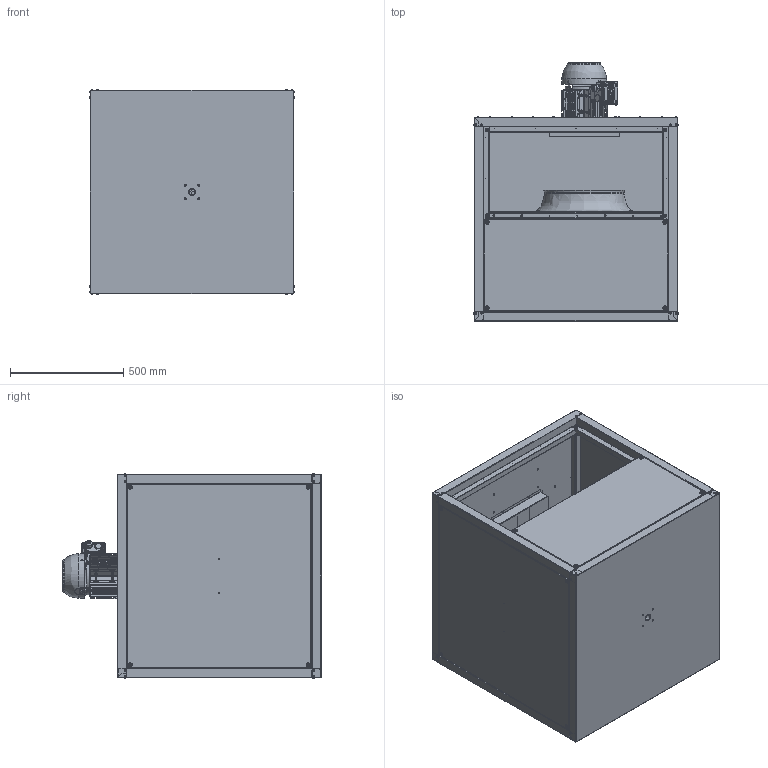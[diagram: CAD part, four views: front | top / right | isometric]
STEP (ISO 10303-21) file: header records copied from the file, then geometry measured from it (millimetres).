
FILE_DESCRIPTION (( 'STEP AP203' ), '1' );
FILE_NAME ('146711-00_MPC560D4F4TI30_step.step', '2018-10-09T10:19:29', ( '' ), ( '' ), 'SwSTEP 2.0', 'SolidWorks 2017', '' );
FILE_SCHEMA (( 'CONFIG_CONTROL_DESIGN' ));
Products named in the file (1): 146711-00_MPC560D4F4TI30_step
Bounding box: 902.6 x 1140.7 x 902.6 mm (x, y, z)
Surface area: 10147363.4 mm2 (no closed solid volume)
Topology: 0 solids, 466 shells, 2033 faces, 10817 edges, 9061 vertices
Faces by surface type: plane 663, cylinder 662, bspline 324, torus 290, cone 94
Entity records: 141638 total; most frequent: CARTESIAN_POINT 63231, DIRECTION 15208, ORIENTED_EDGE 12990, EDGE_CURVE 10814, VERTEX_POINT 9061, AXIS2_PLACEMENT_3D 5355, VECTOR 4498, LINE 4498
